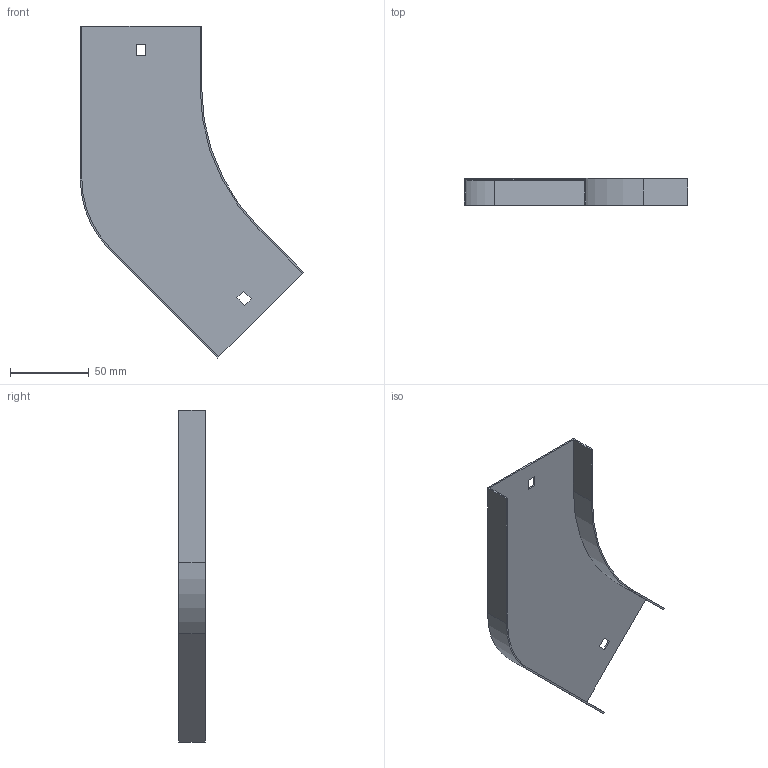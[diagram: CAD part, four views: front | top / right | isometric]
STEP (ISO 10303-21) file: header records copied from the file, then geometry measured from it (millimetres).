
FILE_DESCRIPTION (( 'STEP AP214' ), '1' );
FILE_NAME ('OP4_075.step', '2025-07-16T09:14:00', ( '' ), ( '' ), 'SwSTEP 2.0', 'SolidWorks 2023', '' );
FILE_SCHEMA (( 'AUTOMOTIVE_DESIGN' ));
Length unit declared in the file: millimetre
Products named in the file (1): OP4_075
Bounding box: 141.6 x 17 x 210.41 mm (x, y, z)
Volume: 23424.5 mm3; surface area: 47540.1 mm2
Topology: 1 solids, 1 shells, 26 faces, 72 edges, 48 vertices
Faces by surface type: plane 22, cylinder 4
Entity records: 855 total; most frequent: CARTESIAN_POINT 147, ORIENTED_EDGE 144, DIRECTION 134, EDGE_CURVE 72, VECTOR 64, LINE 64, VERTEX_POINT 48, AXIS2_PLACEMENT_3D 35
